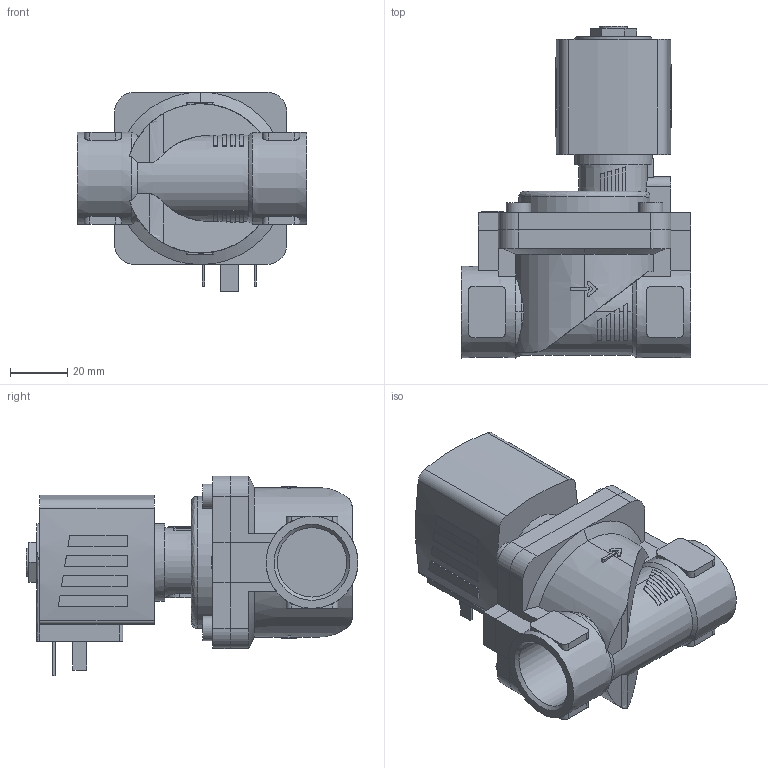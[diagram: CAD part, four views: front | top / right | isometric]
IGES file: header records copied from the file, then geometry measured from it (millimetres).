
Start section: Data from Parasolid IGES Translator 26.0.171, Copyright(c) 2006 Siemens PLM Software. All Rights Reserved.
Global section: file name: 6281-261657-2_2-Way_Solenoid_Valve__Servo-assisted__General_Purpose.igs; native system: By Siemens PLM Incorporated; preprocessor: XPlus GENERIC/IGES 26.0.171; author: Noname; organization: Noname; date: 20240603.114335; units: millimetre
Bounding box: 80 x 115.5 x 69.5 mm (x, y, z)
Surface area: 44258.4 mm2 (no closed solid volume)
Topology: 0 solids, 0 shells, 353 faces, 1848 edges, 1842 vertices
Faces by surface type: extrusion 229, revolution 124
